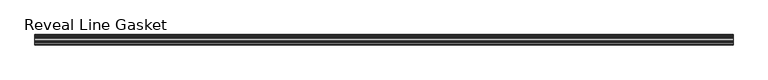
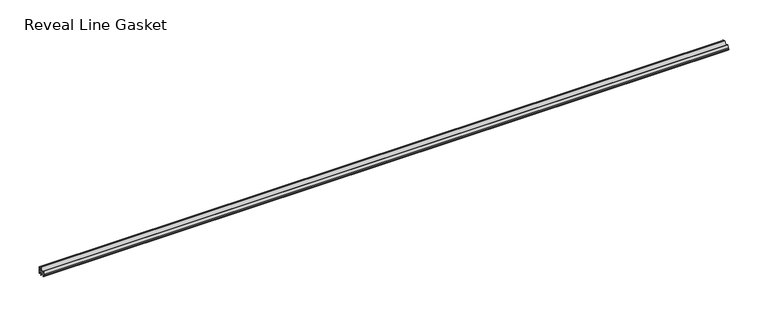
"""IFC4 building model written with IfcOpenShell, lengths in millimetres: proxy geometry, Accessories-Teknion-FHGR-AI_Healthcare-Reveal_Line_Gasket(Horizontal)-R2022 : Reveal Line Gasket."""

import ifcopenshell
import ifcopenshell.guid

model = None  # the IFC model being written
_history = None  # IfcOwnerHistory: only IFC2X3 demands one
_inside = {}  # id of a spatial element -> (the spatial element, [elements in it])
_under = {}  # id of a project, library or spatial element -> (it, [spatial elements below it])
_declared = {}  # id of a project -> (the project, [libraries it declares])
_typed = {}  # id of a type object -> (the type object, [elements of that type])
_made_of = {}  # id of a material, layer set ... -> (it, [elements and type objects made of it])


def new_model(schema):
    """Start an empty IFC model of exactly this schema.

    Asked for "IFC4X3", IfcOpenShell would pick the latest addendum, in which some entities
    have other attributes; the version numbers below select the first issue.
    IFC2X3 requires an IfcOwnerHistory on every rooted entity: one is made here for all.
    """
    global model, _history
    if schema == "IFC4X3":
        model = ifcopenshell.file(schema_version=(4, 3, 0, 0))
    else:
        model = ifcopenshell.file(schema=schema)
    _inside.clear()
    _under.clear()
    _declared.clear()
    _typed.clear()
    _made_of.clear()
    _history = None
    if model.schema == "IFC2X3":
        org = make("IfcOrganization", Name="unknown")
        user = make(
            "IfcPersonAndOrganization",
            ThePerson=make("IfcPerson", FamilyName="unknown"),
            TheOrganization=org,
        )
        app = make(
            "IfcApplication",
            ApplicationDeveloper=org,
            Version="unknown",
            ApplicationFullName="unknown",
            ApplicationIdentifier="unknown",
        )
        _history = make(
            "IfcOwnerHistory",
            OwningUser=user,
            OwningApplication=app,
            ChangeAction="ADDED",
            CreationDate=0,
        )
    return model


def make(cls, **values):
    """One entity of the class cls with the attributes given. An attribute that is None is left unset."""
    return model.create_entity(
        cls, **{name: value for name, value in values.items() if value is not None}
    )


def rooted(cls, **values):
    """An entity with a GlobalId (a new one), such as an element, a storey or a relation."""
    return make(cls, GlobalId=ifcopenshell.guid.new(), OwnerHistory=_history, **values)


def si_unit(unit_type, name, prefix=None):
    """IfcSIUnit, for example si_unit("LENGTHUNIT", "METRE", prefix="MILLI")."""
    return make("IfcSIUnit", UnitType=unit_type, Prefix=prefix, Name=name)


def assignment(units):
    """IfcUnitAssignment: the units of a project."""
    return None if units is None else make("IfcUnitAssignment", Units=units)


def point(xyz):
    """IfcCartesianPoint."""
    return None if xyz is None else make("IfcCartesianPoint", Coordinates=xyz)


def direction(xyz):
    """IfcDirection."""
    return None if xyz is None else make("IfcDirection", DirectionRatios=xyz)


def frame(location, z_axis=None, x_axis=None):
    """IfcAxis2Placement3D, a coordinate frame: its origin and axes. An axis left out is left unset."""
    return make(
        "IfcAxis2Placement3D",
        Location=point(location),
        Axis=direction(z_axis),
        RefDirection=direction(x_axis),
    )


def frame_2d(location, x_axis=None):
    """IfcAxis2Placement2D, a coordinate frame in the plane: its origin and x axis."""
    return make(
        "IfcAxis2Placement2D", Location=point(location), RefDirection=direction(x_axis)
    )


def origin():
    """The frame at (0, 0, 0) with its axes left unset."""
    return frame((0.0, 0.0, 0.0))


def place(relative_to, where):
    """IfcLocalPlacement: puts the frame where relative to a parent placement (None: the world)."""
    return make(
        "IfcLocalPlacement", PlacementRelTo=relative_to, RelativePlacement=where
    )


def context(
    kind, dimensions, precision=None, world=None, true_north=None, identifier=None
):
    """IfcGeometricRepresentationContext, for example the 3D "Model" context."""
    return make(
        "IfcGeometricRepresentationContext",
        ContextIdentifier=identifier,
        ContextType=kind,
        CoordinateSpaceDimension=dimensions,
        Precision=precision,
        WorldCoordinateSystem=world,
        TrueNorth=true_north,
    )


def project(units=None, contexts=None):
    """IfcProject with its units and contexts."""
    return rooted(
        "IfcProject",
        Name="project",
        RepresentationContexts=contexts,
        UnitsInContext=assignment(units),
    )


def spatial(cls, under=None, at=None, **own):
    """A site, building, storey or space (cls), placed at a placement, below another one or the project."""
    s = rooted(cls, ObjectPlacement=at, **own)
    if under is not None:
        _under.setdefault(under.id(), (under, []))[1].append(s)
    return s


def polyline(points):
    """IfcPolyline through the points."""
    return make("IfcPolyline", Points=[point(p) for p in points])


def circle_curve(where, radius):
    """IfcCircle in the frame where."""
    return make("IfcCircle", Position=where, Radius=radius)


def trimmed(basis, trim1, trim2, sense, master):
    """IfcTrimmedCurve: the piece of a basis curve between two trims."""
    return make(
        "IfcTrimmedCurve",
        BasisCurve=basis,
        Trim1=trim1,
        Trim2=trim2,
        SenseAgreement=sense,
        MasterRepresentation=master,
    )


def segment(curve, same_sense, transition):
    """IfcCompositeCurveSegment."""
    return make(
        "IfcCompositeCurveSegment",
        Transition=transition,
        SameSense=same_sense,
        ParentCurve=curve,
    )


def composite_curve(segments, self_intersect=None):
    """IfcCompositeCurve: segments joined end to end."""
    return make("IfcCompositeCurve", Segments=segments, SelfIntersect=self_intersect)


def outline(outer, holes=None, kind="AREA"):
    """IfcArbitraryClosedProfileDef: a profile drawn as a closed curve; with holes, ...WithVoids."""
    if holes is None:
        return make("IfcArbitraryClosedProfileDef", ProfileType=kind, OuterCurve=outer)
    return make(
        "IfcArbitraryProfileDefWithVoids",
        ProfileType=kind,
        OuterCurve=outer,
        InnerCurves=holes,
    )


def extrude(swept, where, along, depth):
    """IfcExtrudedAreaSolid: the profile swept, set in the frame where, extruded along a direction by depth."""
    return make(
        "IfcExtrudedAreaSolid",
        SweptArea=swept,
        Position=where,
        ExtrudedDirection=direction(along),
        Depth=depth,
    )


def shape(context_of_items, identifier, shape_type, items):
    """IfcShapeRepresentation: the items that make up one representation, for example the "Body"."""
    return make(
        "IfcShapeRepresentation",
        ContextOfItems=context_of_items,
        RepresentationIdentifier=identifier,
        RepresentationType=shape_type,
        Items=items,
    )


def source(mapping_origin, context_of_items, identifier, shape_type, items):
    """IfcRepresentationMap: a shape defined once, which mapped items show again and again."""
    return make(
        "IfcRepresentationMap",
        MappingOrigin=mapping_origin,
        MappedRepresentation=shape(context_of_items, identifier, shape_type, items),
    )


def transform(
    local_origin,
    x_axis=None,
    y_axis=None,
    z_axis=None,
    scale=None,
    scale2=None,
    scale3=None,
    uniform=True,
):
    """IfcCartesianTransformationOperator3D, or its non-uniform kind. x_axis, y_axis, z_axis: its Axis1, 2, 3."""
    if uniform:
        return make(
            "IfcCartesianTransformationOperator3D",
            Axis1=direction(x_axis),
            Axis2=direction(y_axis),
            LocalOrigin=point(local_origin),
            Scale=scale,
            Axis3=direction(z_axis),
        )
    return make(
        "IfcCartesianTransformationOperator3DnonUniform",
        Axis1=direction(x_axis),
        Axis2=direction(y_axis),
        LocalOrigin=point(local_origin),
        Scale=scale,
        Axis3=direction(z_axis),
        Scale2=scale2,
        Scale3=scale3,
    )


def mapped(mapping_source, mapping_target):
    """IfcMappedItem: shows the shape of a source again, moved by a transform."""
    return make(
        "IfcMappedItem", MappingSource=mapping_source, MappingTarget=mapping_target
    )


def made_of(thing, what):
    """Note that an element or type object is made of a material, layer set ...; save() writes the relation."""
    if what is not None:
        _made_of.setdefault(what.id(), (what, []))[1].append(thing)
    return thing


def element(
    cls,
    number,
    at=None,
    inside=None,
    cuts=None,
    type_object=None,
    material=None,
    context=None,
    identifier="Body",
    shape_type=None,
    held_by="IfcProductDefinitionShape",
    body=None,
    shapes=None,
    **own,
):
    """One element of the class cls, such as IfcWall. Its Tag is "e" and its number.

    at: its placement. inside: the storey or other place that contains it. cuts: it is an
    opening in that element (IfcRelVoidsElement). A single representation is given by context,
    identifier, shape_type and body (its items); several are given by shapes. held_by: the class
    of the entity that holds the representations. save() writes the other relations.
    """
    e = rooted(cls, Tag="e%d" % number, ObjectPlacement=at, **own)
    if body is not None:
        shapes = [shape(context, identifier, shape_type, body)]
    if shapes is not None:
        e.Representation = make(held_by, Representations=shapes)
    if inside is not None:
        _inside.setdefault(inside.id(), (inside, []))[1].append(e)
    if cuts is not None:
        rooted(
            "IfcRelVoidsElement", RelatingBuildingElement=cuts, RelatedOpeningElement=e
        )
    if type_object is not None:
        _typed.setdefault(type_object.id(), (type_object, []))[1].append(e)
    return made_of(e, material)


def aggregate(whole, parts):
    """IfcRelAggregates: a whole, such as a stair, and the parts it consists of."""
    return rooted("IfcRelAggregates", RelatingObject=whole, RelatedObjects=parts)


def save(model, path):
    """Write the relations noted so far, then the file.

    IfcRelAggregates (storeys below a building ...), IfcRelContainedInSpatialStructure (elements
    in a storey), IfcRelDefinesByType, IfcRelAssociatesMaterial and IfcRelDeclares: one each for
    every whole, place, type object, material and project.
    """
    for whole, parts in _under.values():
        aggregate(whole, parts)
    for where, things in _inside.values():
        rooted(
            "IfcRelContainedInSpatialStructure",
            RelatedElements=things,
            RelatingStructure=where,
        )
    for kind, things in _typed.values():
        rooted("IfcRelDefinesByType", RelatedObjects=things, RelatingType=kind)
    for what, things in _made_of.values():
        rooted("IfcRelAssociatesMaterial", RelatedObjects=things, RelatingMaterial=what)
    for by, libraries in _declared.values():
        rooted("IfcRelDeclares", RelatingContext=by, RelatedDefinitions=libraries)
    model.write(path)


def reveal_line_gasket_876f636f(model_context):
    return source(origin(), model_context, "Body", "SweptSolid", [
        extrude(outline(composite_curve([segment(polyline([(7.6326998, 1603.2), (7.6326998, 1597.2), (7.4091917, 1596.2445073), (6.8813059, 1595.3115316)]), True, "CONTINUOUS"), segment(trimmed(circle_curve(frame_2d((6.5243141, 1595.5135207)), 0.4101739), [point((6.8813059, 1595.3115316))], [point((6.1246704, 1595.6058653))], False, "CARTESIAN"), True, "CONTINUOUS"), segment(polyline([(6.1246704, 1595.6058653), (6.3626997, 1597.3020914), (6.3626997, 1599.3345473)]), True, "CONTINUOUS"), segment(trimmed(circle_curve(frame_2d((5.6959605, 1598.9180742)), 0.786124), [point((6.3626997, 1599.3345473))], [point((5.0926996, 1599.422125))], True, "CARTESIAN"), True, "CONTINUOUS"), segment(polyline([(5.0926996, 1599.422125), (0.7492996, 1599.422125), (3.7293824, 1594.2604705)]), True, "CONTINUOUS"), segment(trimmed(circle_curve(frame_2d((3.3132479, 1594.1950239)), 0.4212495), [point((3.7293824, 1594.2604705))], [point((3.0485022, 1593.8673642))], False, "CARTESIAN"), True, "CONTINUOUS"), segment(polyline([(3.0485022, 1593.8673642), (-0.5742594, 1599.422125), (-4.8262978, 1599.422125), (-3.1660374, 1596.5464703)]), True, "CONTINUOUS"), segment(trimmed(circle_curve(frame_2d((-3.5978728, 1596.4881145)), 0.4357605), [point((-3.1660374, 1596.5464703))], [point((-3.864328, 1596.1433119))], False, "CARTESIAN"), True, "CONTINUOUS"), segment(polyline([(-3.864328, 1596.1433119), (-6.1944059, 1599.422125), (-7.6326998, 1599.422125), (-7.6326998, 1600.977875), (-6.1944059, 1600.977875), (-3.864328, 1604.2566881)]), True, "CONTINUOUS"), segment(trimmed(circle_curve(frame_2d((-3.5978728, 1603.9118855)), 0.4357605), [point((-3.864328, 1604.2566881))], [point((-3.1660374, 1603.8535297))], False, "CARTESIAN"), True, "CONTINUOUS"), segment(polyline([(-3.1660374, 1603.8535297), (-4.8262978, 1600.977875), (-0.5742594, 1600.977875), (3.0485022, 1606.5326358)]), True, "CONTINUOUS"), segment(trimmed(circle_curve(frame_2d((3.3132479, 1606.2049761)), 0.4212495), [point((3.0485022, 1606.5326358))], [point((3.7293824, 1606.1395295))], False, "CARTESIAN"), True, "CONTINUOUS"), segment(polyline([(3.7293824, 1606.1395295), (0.7492996, 1600.977875), (5.0926996, 1600.977875)]), True, "CONTINUOUS"), segment(trimmed(circle_curve(frame_2d((5.6959605, 1601.4819258)), 0.786124), [point((5.0926996, 1600.977875))], [point((6.3626997, 1601.0654527))], True, "CARTESIAN"), True, "CONTINUOUS"), segment(polyline([(6.3626997, 1601.0654527), (6.3626997, 1603.0979086), (6.1246704, 1604.7941347)]), True, "CONTINUOUS"), segment(trimmed(circle_curve(frame_2d((6.5243141, 1604.8864793)), 0.4101739), [point((6.1246704, 1604.7941347))], [point((6.8813059, 1605.0884684))], False, "CARTESIAN"), True, "CONTINUOUS"), segment(polyline([(6.8813059, 1605.0884684), (7.4091917, 1604.1554927), (7.6326998, 1603.2)]), True, "CONTINUOUS")], self_intersect=False)), frame((-506.1204, 0.0, 0.0), z_axis=(1.0, 0.0, 0.0), x_axis=(0.0, 1.0, 0.0)), (0.0, 0.0, 1.0), 1012.2408),
    ])


if __name__ == "__main__":
    model = new_model("IFC4")
    model_context = context("Model", 3, world=origin())
    ifc_project = project(units=[si_unit("LENGTHUNIT", "METRE", prefix="MILLI")], contexts=[model_context])
    site = spatial("IfcSite", under=ifc_project)
    building = spatial("IfcBuilding", under=site)
    placement = place(None, origin())
    reveal_line_gasket_shape = reveal_line_gasket_876f636f(model_context)
    element("IfcBuildingElementProxy", 1, Name="Accessories-Teknion-FHGR-AI_Healthcare-Reveal_Line_Gasket(Horizontal)-R2022 : Reveal Line Gasket", ObjectType="Accessories-Teknion-FHGR-AI_Healthcare-Reveal_Line_Gasket(Horizontal)-R2022 : Reveal Line Gasket", at=placement, inside=building, context=model_context, shape_type="MappedRepresentation", body=[
        mapped(reveal_line_gasket_shape, transform((0.0, 0.0, 0.0), x_axis=(1.0, 0.0, 0.0), y_axis=(0.0, 1.0, 0.0), z_axis=(0.0, 0.0, 1.0))),
    ])
    save(model, "model.ifc")
